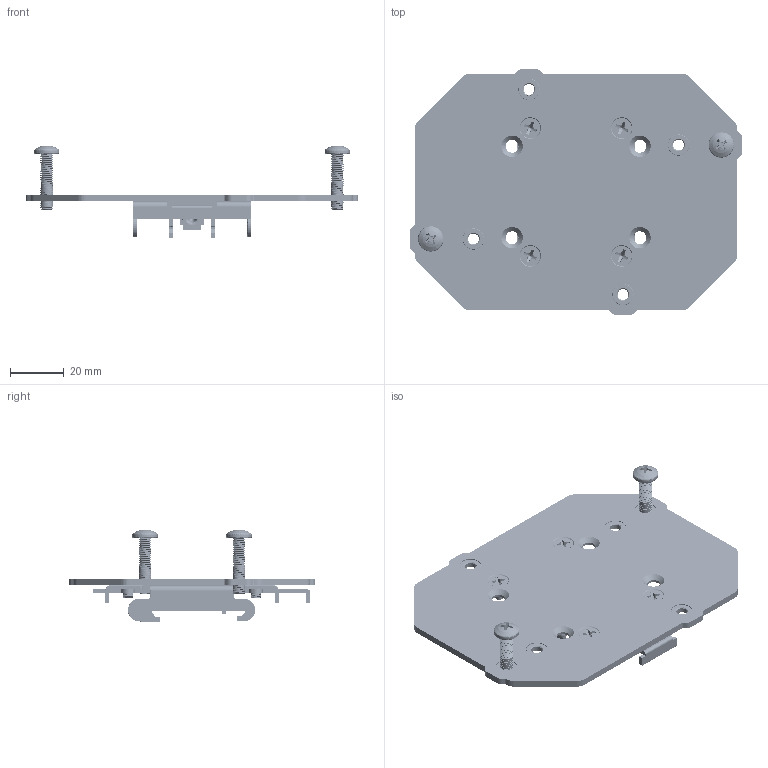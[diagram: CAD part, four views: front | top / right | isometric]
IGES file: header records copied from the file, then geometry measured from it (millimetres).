
Start section: SolidWorks IGES file using analytic representation for surfaces
Global section: file name: C:\Users\micheal_berezny\Desktop\SolidWorks\DIN-MNT (Landscape).IGS; native system: SolidWorks 2013; preprocessor: SolidWorks 2013; author: mike_berezny; date: 200716.120503; units: inch
Bounding box: 123.37 x 91.36 x 34.5 mm (x, y, z)
Surface area: 35495.1 mm2 (no closed solid volume)
Topology: 0 solids, 0 shells, 1416 faces, 19811 edges, 19781 vertices
Faces by surface type: revolution 875, bspline 541
